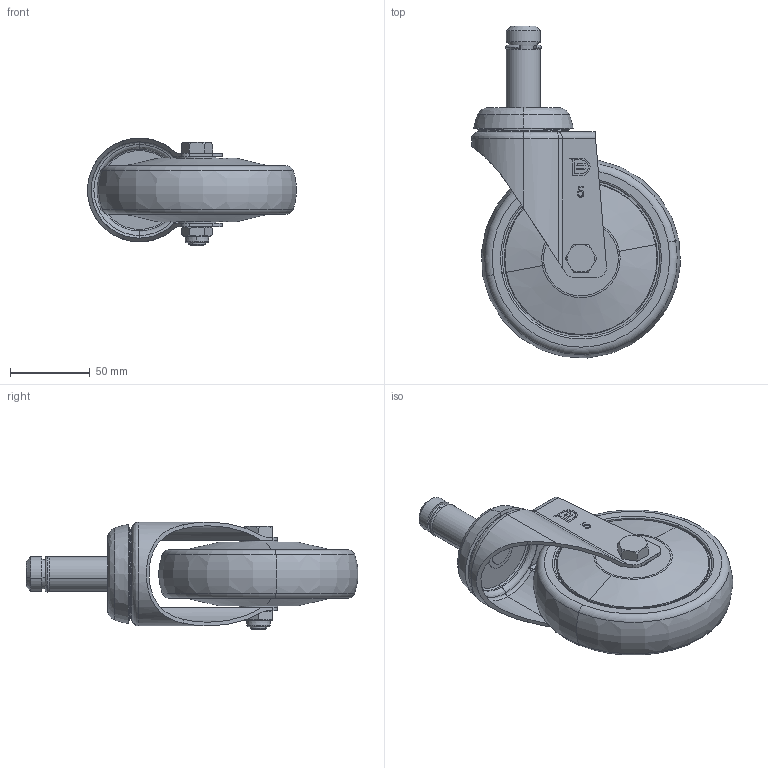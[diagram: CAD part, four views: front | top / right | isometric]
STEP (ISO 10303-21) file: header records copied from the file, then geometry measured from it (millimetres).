
FILE_DESCRIPTION (( 'STEP AP203' ), '1' );
FILE_NAME ('11290500067943.STEP', '2025-06-18T02:27:18', ( '20241006' ), ( '' ), 'SwSTEP 2.0', 'SolidWorks 2021', '' );
FILE_SCHEMA (( 'CONFIG_CONTROL_DESIGN' ));
Length unit declared in the file: millimetre
Products named in the file (6): 5''''经典PPR轮（外观图用）; 复件 5寸医疗活动脚^5''''医疗活动架（外观图）; 复件 尼帽M10^5''''医疗活动架（外观图）_預設; 11290500067943; ?21.6×56無臺階插桿外观图; 复件 車心20^5''''医疗活动架（外观图）_預設
Assembly tree (5 placements, depth 2):
  11290500067943
    复件 5寸医疗活动脚^5''''医疗活动架（外观图）
    复件 車心20^5''''医疗活动架（外观图）_預設
    复件 尼帽M10^5''''医疗活动架（外观图）_預設
    ?21.6×56無臺階插桿外观图
    5''''经典PPR轮（外观图用）
Bounding box: 130.8 x 207.78 x 67.5 mm (x, y, z)
Volume: 472251.9 mm3; surface area: 78467.4 mm2
Topology: 6 solids, 6 shells, 225 faces, 513 edges, 317 vertices
Faces by surface type: plane 72, cylinder 57, cone 39, bspline 34, torus 23
Entity records: 8623 total; most frequent: CARTESIAN_POINT 3006, DIRECTION 1075, ORIENTED_EDGE 1026, EDGE_CURVE 513, AXIS2_PLACEMENT_3D 436, VERTEX_POINT 317, EDGE_LOOP 252, CIRCLE 237
